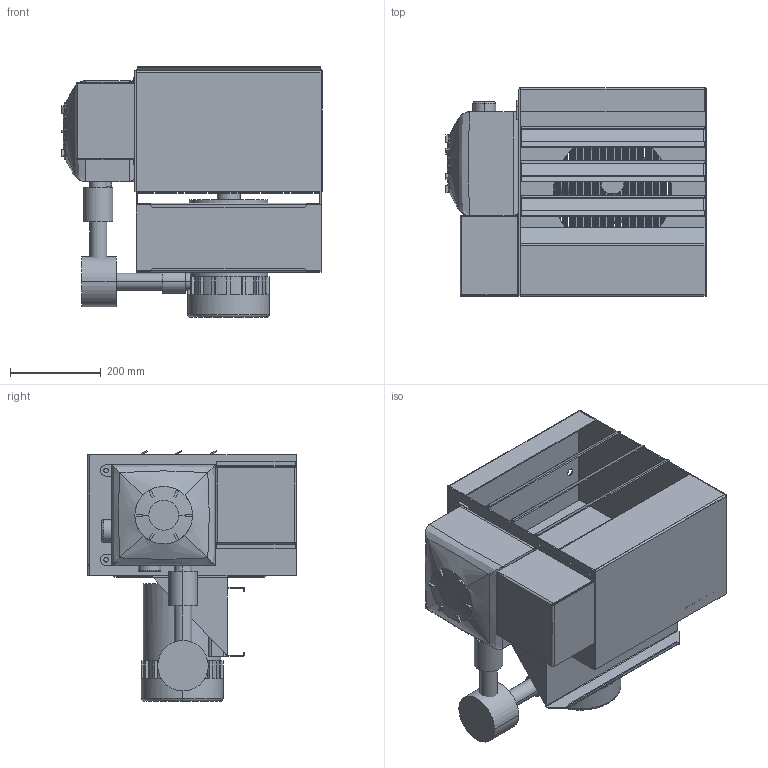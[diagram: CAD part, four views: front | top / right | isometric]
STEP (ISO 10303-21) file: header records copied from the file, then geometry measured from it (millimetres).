
FILE_DESCRIPTION (( 'STEP AP214' ), '1' );
FILE_NAME ('EPH-FH-T3B-3KW.STEP', '2019-03-27T18:48:59', ( '' ), ( '' ), 'SwSTEP 2.0', 'SolidWorks 2016', '' );
FILE_SCHEMA (( 'AUTOMOTIVE_DESIGN' ));
Length unit declared in the file: inch
Products named in the file (11): motor base; box2; EPH-FH-T3B-3KW; Front cover; Fan Screen; motor; Heater flange; flange; pipes; Side box; Grill
Assembly tree (12 placements, depth 2):
  EPH-FH-T3B-3KW
    Heater flange
    Side box
    box2
    motor base
    flange  x3
    Front cover
    Grill
    Fan Screen
    pipes
    motor
Bounding box: 573.79 x 459.74 x 552.29 mm (x, y, z)
Volume: 17650156.9 mm3; surface area: 2878471.7 mm2
Topology: 12 solids, 92 shells, 1337 faces, 3347 edges, 2046 vertices
Faces by surface type: cylinder 925, plane 388, bspline 16, torus 6, cone 2
Entity records: 38389 total; most frequent: CARTESIAN_POINT 10737, ORIENTED_EDGE 6006, DIRECTION 5277, EDGE_CURVE 3163, VERTEX_POINT 1942, AXIS2_PLACEMENT_3D 1879, LINE 1519, VECTOR 1519
